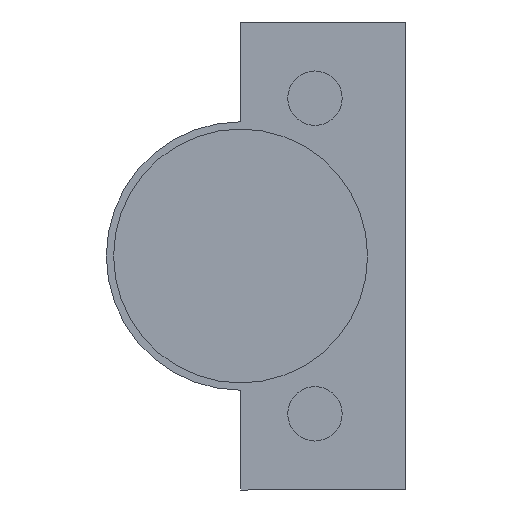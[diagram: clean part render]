
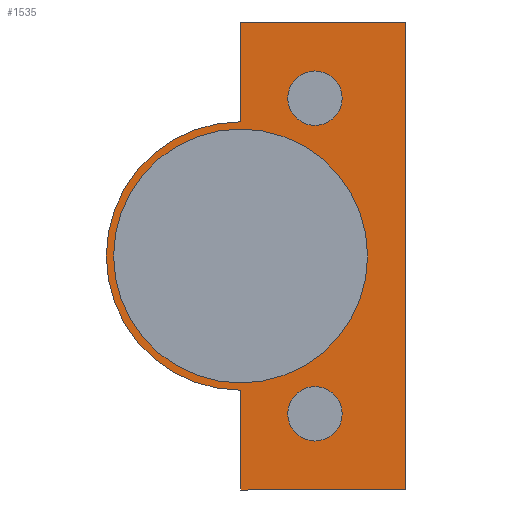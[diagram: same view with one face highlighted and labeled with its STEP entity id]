
A CAD part, front view. The second image highlights one B-rep face of the part: STEP entity #1535.
In plain terms, the highlighted planar face has unit normal (0, -1, 0).
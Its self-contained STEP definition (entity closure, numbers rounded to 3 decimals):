
#29 = ORIENTED_EDGE ( 'NONE', *, *, #1579, .F. ) ;
#30 = ORIENTED_EDGE ( 'NONE', *, *, #1561, .F. ) ;
#31 = ORIENTED_EDGE ( 'NONE', *, *, #1556, .F. ) ;
#32 = ORIENTED_EDGE ( 'NONE', *, *, #1565, .F. ) ;
#33 = ORIENTED_EDGE ( 'NONE', *, *, #1625, .F. ) ;
#34 = ORIENTED_EDGE ( 'NONE', *, *, #1627, .T. ) ;
#35 = ORIENTED_EDGE ( 'NONE', *, *, #1244, .T. ) ;
#36 = ORIENTED_EDGE ( 'NONE', *, *, #1562, .T. ) ;
#37 = ORIENTED_EDGE ( 'NONE', *, *, #1242, .T. ) ;
#38 = ORIENTED_EDGE ( 'NONE', *, *, #1563, .T. ) ;
#39 = ORIENTED_EDGE ( 'NONE', *, *, #1555, .F. ) ;
#40 = ORIENTED_EDGE ( 'NONE', *, *, #1559, .F. ) ;
#296 = EDGE_LOOP ( 'NONE', ( #39, #40 ) ) ;
#297 = EDGE_LOOP ( 'NONE', ( #37, #38 ) ) ;
#303 = EDGE_LOOP ( 'NONE', ( #29, #34, #30, #31, #32, #33 ) ) ;
#304 = EDGE_LOOP ( 'NONE', ( #35, #36 ) ) ;
#364 = CIRCLE ( 'NONE', #1262, 3.75 ) ;
#366 = CIRCLE ( 'NONE', #1267, 3.75 ) ;
#438 = FACE_BOUND ( 'NONE', #304, .T. ) ;
#440 = FACE_OUTER_BOUND ( 'NONE', #303, .T. ) ;
#444 = FACE_BOUND ( 'NONE', #297, .T. ) ;
#446 = FACE_BOUND ( 'NONE', #296, .T. ) ;
#469 = LINE ( 'NONE', #1219, #470 ) ;
#470 = VECTOR ( 'NONE', #1220, 1000. ) ;
#472 = CIRCLE ( 'NONE', #1281, 17.5 ) ;
#477 = LINE ( 'NONE', #1226, #479 ) ;
#478 = CIRCLE ( 'NONE', #1339, 17.5 ) ;
#479 = VECTOR ( 'NONE', #674, 1000. ) ;
#483 = CIRCLE ( 'NONE', #1340, 3.75 ) ;
#485 = CIRCLE ( 'NONE', #1276, 3.75 ) ;
#486 = LINE ( 'NONE', #682, #487 ) ;
#487 = VECTOR ( 'NONE', #683, 1000. ) ;
#505 = VECTOR ( 'NONE', #714, 1000. ) ;
#511 = LINE ( 'NONE', #706, #505 ) ;
#599 = CIRCLE ( 'NONE', #1352, 18.5 ) ;
#600 = LINE ( 'NONE', #1421, #601 ) ;
#601 = VECTOR ( 'NONE', #1422, 1000. ) ;
#668 = DIRECTION ( 'NONE',  ( 0., -1., 0. ) ) ;
#669 = DIRECTION ( 'NONE',  ( -1., 0., 0. ) ) ;
#670 = CARTESIAN_POINT ( 'NONE',  ( 15.75, 0., 21.75 ) ) ;
#673 = CARTESIAN_POINT ( 'NONE',  ( 15.75, 0., -21.75 ) ) ;
#674 = DIRECTION ( 'NONE',  ( 0., 0., -1. ) ) ;
#676 = DIRECTION ( 'NONE',  ( 0., 1., 0. ) ) ;
#677 = DIRECTION ( 'NONE',  ( -1., 0., 0. ) ) ;
#678 = DIRECTION ( 'NONE',  ( 0., 1., 0. ) ) ;
#679 = DIRECTION ( 'NONE',  ( -1., 0., 0. ) ) ;
#682 = CARTESIAN_POINT ( 'NONE',  ( 5.5, 0., 18.5 ) ) ;
#683 = DIRECTION ( 'NONE',  ( 0., 0., 1. ) ) ;
#706 = CARTESIAN_POINT ( 'NONE',  ( 5.5, 0., -31. ) ) ;
#714 = DIRECTION ( 'NONE',  ( 0., 0., 1. ) ) ;
#742 = VERTEX_POINT ( 'NONE', #834 ) ;
#747 = VERTEX_POINT ( 'NONE', #837 ) ;
#750 = VERTEX_POINT ( 'NONE', #833 ) ;
#751 = VERTEX_POINT ( 'NONE', #839 ) ;
#755 = VERTEX_POINT ( 'NONE', #843 ) ;
#758 = VERTEX_POINT ( 'NONE', #846 ) ;
#812 = VERTEX_POINT ( 'NONE', #900 ) ;
#813 = VERTEX_POINT ( 'NONE', #901 ) ;
#816 = VERTEX_POINT ( 'NONE', #904 ) ;
#818 = VERTEX_POINT ( 'NONE', #906 ) ;
#820 = VERTEX_POINT ( 'NONE', #908 ) ;
#821 = VERTEX_POINT ( 'NONE', #909 ) ;
#833 = CARTESIAN_POINT ( 'NONE',  ( 12., 0., 21.75 ) ) ;
#834 = CARTESIAN_POINT ( 'NONE',  ( 19.5, 0., -21.75 ) ) ;
#837 = CARTESIAN_POINT ( 'NONE',  ( 12., 0., -21.75 ) ) ;
#839 = CARTESIAN_POINT ( 'NONE',  ( -12., 0., 0. ) ) ;
#843 = CARTESIAN_POINT ( 'NONE',  ( 19.5, 0., 21.75 ) ) ;
#846 = CARTESIAN_POINT ( 'NONE',  ( 23., 0., 0. ) ) ;
#900 = CARTESIAN_POINT ( 'NONE',  ( 5.5, 0., -32.25 ) ) ;
#901 = CARTESIAN_POINT ( 'NONE',  ( 5.5, 0., 18.5 ) ) ;
#904 = CARTESIAN_POINT ( 'NONE',  ( 5.5, 0., -18.5 ) ) ;
#906 = CARTESIAN_POINT ( 'NONE',  ( 5.5, 0., 32.25 ) ) ;
#908 = CARTESIAN_POINT ( 'NONE',  ( 28.25, 0., -32.25 ) ) ;
#909 = CARTESIAN_POINT ( 'NONE',  ( 28.25, 0., 32.25 ) ) ;
#956 = CARTESIAN_POINT ( 'NONE',  ( 15.75, 0., 21.75 ) ) ;
#957 = DIRECTION ( 'NONE',  ( 0., 1., 0. ) ) ;
#958 = DIRECTION ( 'NONE',  ( -1., 0., 0. ) ) ;
#959 = CARTESIAN_POINT ( 'NONE',  ( 15.75, 0., -21.75 ) ) ;
#961 = DIRECTION ( 'NONE',  ( 0., 1., 0. ) ) ;
#962 = DIRECTION ( 'NONE',  ( -1., 0., 0. ) ) ;
#1142 = PLANE ( 'NONE',  #1319 ) ;
#1145 = CARTESIAN_POINT ( 'NONE',  ( 5.5, 0., 0. ) ) ;
#1147 = DIRECTION ( 'NONE',  ( 0., 1., 0. ) ) ;
#1148 = DIRECTION ( 'NONE',  ( -1., 0., 0. ) ) ;
#1216 = CARTESIAN_POINT ( 'NONE',  ( 5.5, 0., 0. ) ) ;
#1217 = DIRECTION ( 'NONE',  ( 0., -1., 0. ) ) ;
#1218 = DIRECTION ( 'NONE',  ( -1., 0., 0. ) ) ;
#1219 = CARTESIAN_POINT ( 'NONE',  ( 28.25, 0., 32.25 ) ) ;
#1220 = DIRECTION ( 'NONE',  ( 1., 0., 0. ) ) ;
#1221 = CARTESIAN_POINT ( 'NONE',  ( 5.5, 0., 0. ) ) ;
#1226 = CARTESIAN_POINT ( 'NONE',  ( 28.25, 0., 32.25 ) ) ;
#1242 = EDGE_CURVE ( 'NONE', #750, #755, #364, .T. ) ;
#1244 = EDGE_CURVE ( 'NONE', #747, #742, #366, .T. ) ;
#1262 = AXIS2_PLACEMENT_3D ( 'NONE', #956, #957, #958 ) ;
#1267 = AXIS2_PLACEMENT_3D ( 'NONE', #959, #961, #962 ) ;
#1276 = AXIS2_PLACEMENT_3D ( 'NONE', #670, #678, #679 ) ;
#1281 = AXIS2_PLACEMENT_3D ( 'NONE', #1216, #1217, #1218 ) ;
#1319 = AXIS2_PLACEMENT_3D ( 'NONE', #1145, #1147, #1148 ) ;
#1339 = AXIS2_PLACEMENT_3D ( 'NONE', #1221, #668, #669 ) ;
#1340 = AXIS2_PLACEMENT_3D ( 'NONE', #673, #676, #677 ) ;
#1352 = AXIS2_PLACEMENT_3D ( 'NONE', #1409, #1417, #1418 ) ;
#1409 = CARTESIAN_POINT ( 'NONE',  ( 5.5, 0., 0. ) ) ;
#1417 = DIRECTION ( 'NONE',  ( 0., 1., 0. ) ) ;
#1418 = DIRECTION ( 'NONE',  ( -1., 0., 0. ) ) ;
#1421 = CARTESIAN_POINT ( 'NONE',  ( 28.25, 0., -32.25 ) ) ;
#1422 = DIRECTION ( 'NONE',  ( 1., 0., 0. ) ) ;
#1535 = ADVANCED_FACE ( 'NONE', ( #440, #438, #444, #446 ), #1142, .F. ) ;
#1555 = EDGE_CURVE ( 'NONE', #751, #758, #472, .T. ) ;
#1556 = EDGE_CURVE ( 'NONE', #818, #821, #469, .T. ) ;
#1559 = EDGE_CURVE ( 'NONE', #758, #751, #478, .T. ) ;
#1561 = EDGE_CURVE ( 'NONE', #821, #820, #477, .T. ) ;
#1562 = EDGE_CURVE ( 'NONE', #742, #747, #483, .T. ) ;
#1563 = EDGE_CURVE ( 'NONE', #755, #750, #485, .T. ) ;
#1565 = EDGE_CURVE ( 'NONE', #813, #818, #486, .T. ) ;
#1579 = EDGE_CURVE ( 'NONE', #812, #816, #511, .T. ) ;
#1625 = EDGE_CURVE ( 'NONE', #816, #813, #599, .T. ) ;
#1627 = EDGE_CURVE ( 'NONE', #812, #820, #600, .T. ) ;
